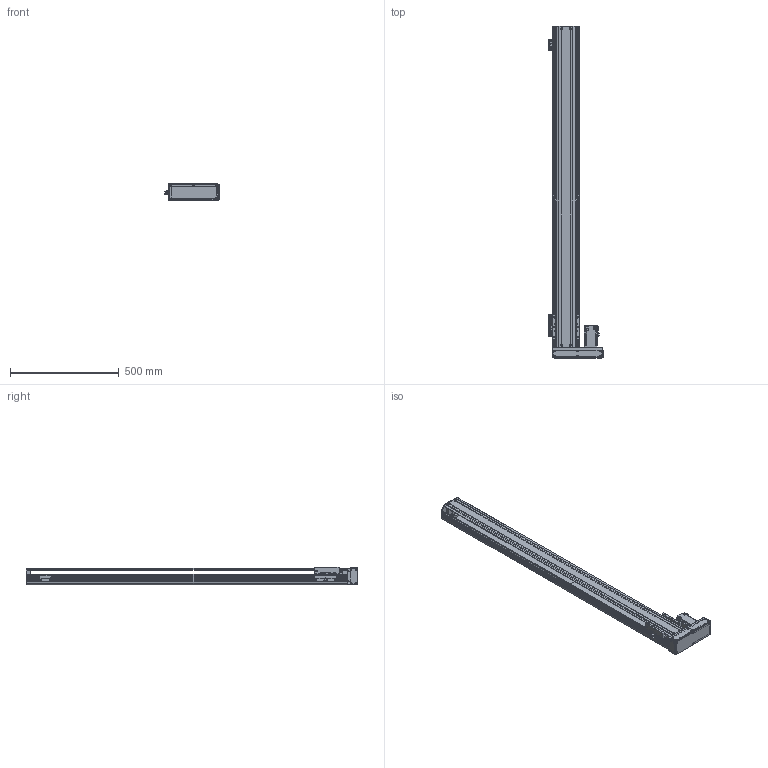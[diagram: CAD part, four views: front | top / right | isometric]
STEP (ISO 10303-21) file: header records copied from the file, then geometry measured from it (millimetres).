
FILE_DESCRIPTION(/* description */ ('MANUFACTURE'),/* implementation_level */ '2;1');
FILE_NAME(/* name */ '\\192.168.0.160\disk1\HAN SHIN Master\B-설계부문\C-표준\B-2024년\BC02-표준도면\+로봇 개선표준도면\홈페이지 표준 도면\홈페이지 최종 작업 폴더\3D\HR\HR120\HR120병렬\우병렬\HR120-R40-N-1300-L10.stp',/* time_stamp */ '2025-01-20T19:10:43+09:00',/* author */ ('user'),/* organization */ (''),/* preprocessor_version */ 'ST-DEVELOPER v18.1',/* originating_system */ 'Autodesk Inventor 2022',/* authorisation */ 'LIP');
FILE_SCHEMA (('CONFIG_CONTROL_DESIGN'));
Products named in the file (20): HG120-L40-N-0500-R10; HR120 S BASE; HR(HG) 120,130 FRONT BLOCK; HR(HG) 120,130 FRONT BLOCK_1; HR120 FRONT COVER; HG5UPCOV003; ORP6; HG120 TABLE-N; HR120 STOPPER; HR120 LR MOTOR PLATE (400W)-사출; MOTOR PLATE - 200W; hg-kr43_; 화살표; HR120 LR BELT COVER; HR160 ACRYL COVER - 1; HR160 ACRYL COVER - 1_1; HR160 ACRYL COVER - 1_2; HR120 SENSOR DOG; SENSOR BRK(EE-SX674A); EE_SX674A
Assembly tree (25 placements, depth 2):
  HG120-L40-N-0500-R10
    HR120 S BASE
    HR(HG) 120,130 FRONT BLOCK
    HR(HG) 120,130 FRONT BLOCK_1
    HR120 FRONT COVER
    HG5UPCOV003
    ORP6
    HG120 TABLE-N
    HR120 STOPPER
    HR120 LR MOTOR PLATE (400W)-사출
    MOTOR PLATE - 200W
    hg-kr43_
    화살표  x2
    HR120 LR BELT COVER
    HR160 ACRYL COVER - 1
    HR160 ACRYL COVER - 1_1
    HR160 ACRYL COVER - 1_2  x2
    SENSOR BRK(EE-SX674A)  x3
    EE_SX674A  x3
    HR120 SENSOR DOG
Bounding box: 250 x 1523 x 80 mm (x, y, z)
Volume: 3968809.1 mm3; surface area: 1607425.9 mm2
Topology: 25 solids, 25 shells, 3076 faces, 8788 edges, 5806 vertices
Faces by surface type: plane 2205, cylinder 728, cone 142, torus 1
Full cylindrical faces by diameter (mm): 2.459 x50, 3 x4, 3.242 x48, 3.4 x20, 3.5 x6, 4.134 x42, 4.5 x56, 4.917 x6, 5 x26, 5.5 x31, 5.8 x4, 5.9 x8, 6 x4, 6.6 x2, 7 x4, 7.5 x16, 8 x4, 9 x6, 9.5 x19, 14 x1, 17 x1, 20 x1, 22 x1, 24 x1, 28 x1, 32 x2, 33.7 x1, 50 x2
Entity records: 97614 total; most frequent: CARTESIAN_POINT 19492, ORIENTED_EDGE 16328, DIRECTION 15163, EDGE_CURVE 8164, LINE 6517, VECTOR 6517, VERTEX_POINT 5458, AXIS2_PLACEMENT_3D 4323
